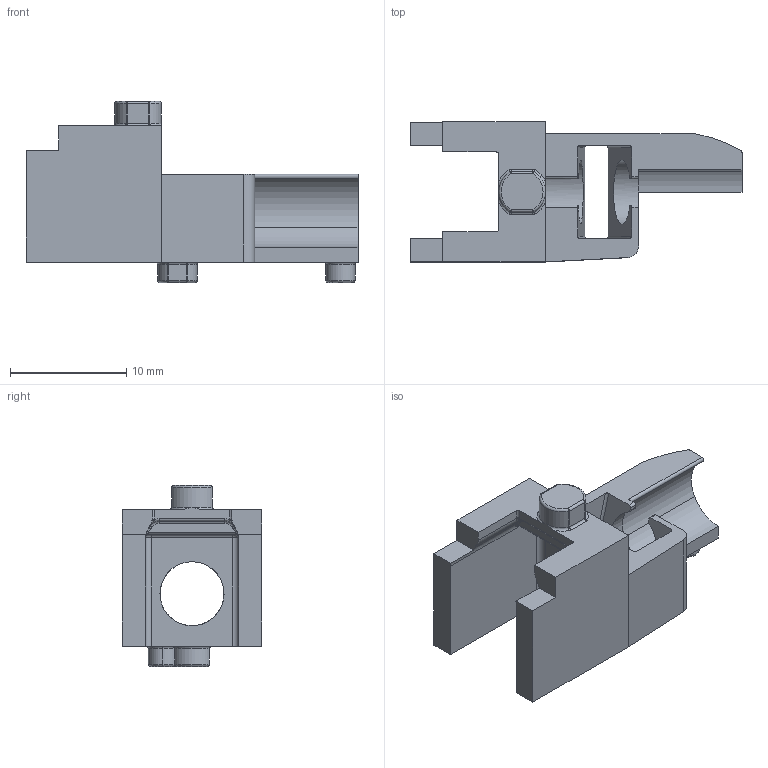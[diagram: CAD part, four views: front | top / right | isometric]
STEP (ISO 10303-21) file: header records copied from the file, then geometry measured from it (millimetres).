
FILE_DESCRIPTION(('CATIA V5 STEP Exchange'),'2;1');
FILE_NAME('C:\model\lock-001.45.022.41_1.1.1.1.stp','2022-08-26T10:52:28+00:00',('none'),('none'),'CATIA Version 5 Release 19 SP 8 (IN-10)','CATIA V5 STEP AP214','none');
FILE_SCHEMA(('AUTOMOTIVE_DESIGN { 1 0 10303 214 1 1 1 1 }'));
Length unit declared in the file: millimetre
Products named in the file (1): lock-001.45.022.41_1.1.1.1
Bounding box: 28.5 x 12 x 15.55 mm (x, y, z)
Volume: 1189.7 mm3; surface area: 1578 mm2
Topology: 1 solids, 1 shells, 163 faces, 428 edges, 255 vertices
Faces by surface type: cylinder 65, plane 44, torus 36, sphere 10, bspline 8
Entity records: 5125 total; most frequent: CARTESIAN_POINT 1378, ORIENTED_EDGE 832, DIRECTION 647, EDGE_CURVE 416, AXIS2_PLACEMENT_3D 324, VERTEX_POINT 255, VECTOR 184, LINE 184
